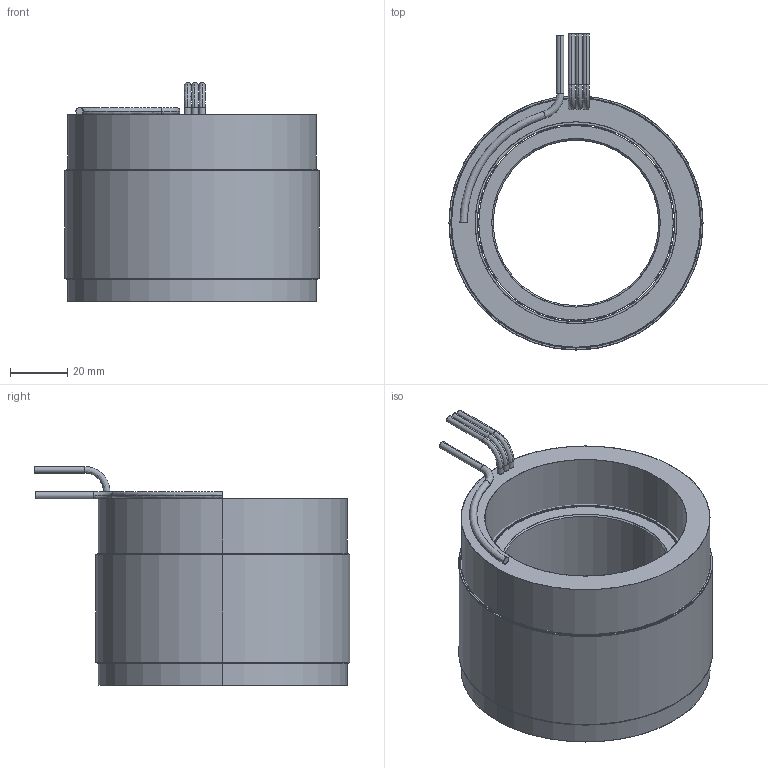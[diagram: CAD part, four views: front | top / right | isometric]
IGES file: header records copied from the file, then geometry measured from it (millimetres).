
Start section: SolidWorks IGES file using analytic representation for surfaces
Global section: file name: \\fs01.aveox.local\user documents\eng\My Documents\6100394-XX STATOR AND ROTOR SET, UT-3500-24P3, SENSORLESS\6100394-04.IGS; native system: SolidWorks 2016; preprocessor: SolidWorks 2016; author: eng; date: 201214.193549; units: inch
Bounding box: 88.9 x 110.49 x 76.58 mm (x, y, z)
Surface area: 97812.4 mm2 (no closed solid volume)
Topology: 0 solids, 0 shells, 75 faces, 2288 edges, 2288 vertices
Faces by surface type: revolution 46, bspline 29
